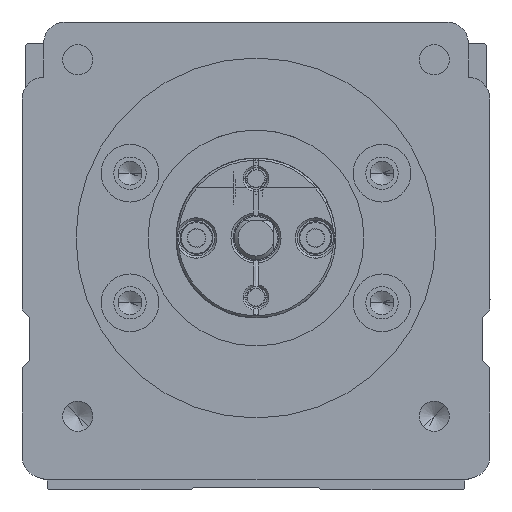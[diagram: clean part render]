
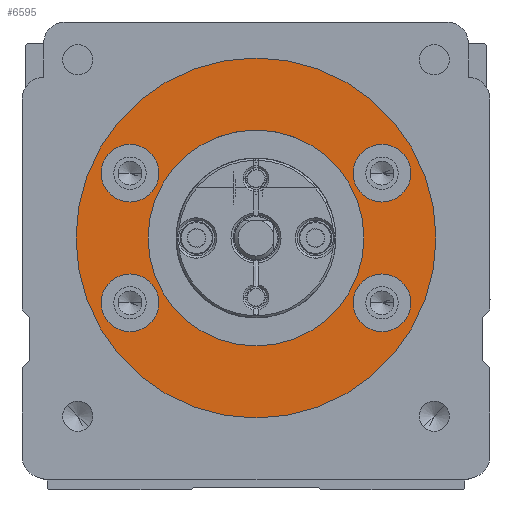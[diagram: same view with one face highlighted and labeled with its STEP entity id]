
A CAD part, front view. The second image highlights one B-rep face of the part: STEP entity #6595.
In plain terms, the highlighted planar face has unit normal (0, -1, 0).
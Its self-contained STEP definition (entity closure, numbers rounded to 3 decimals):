
#6595=ADVANCED_FACE('',(#13615,#13616,#13617,#13618,#13619,#13620),#13621,.F.);
#13615=FACE_BOUND('',#22491,.T.);
#13616=FACE_BOUND('',#22492,.T.);
#13617=FACE_BOUND('',#22493,.T.);
#13618=FACE_BOUND('',#22494,.T.);
#13619=FACE_BOUND('',#22495,.T.);
#13620=FACE_OUTER_BOUND('',#22496,.T.);
#13621=PLANE('',#22497);
#22491=EDGE_LOOP('',(#40589,#40590));
#22492=EDGE_LOOP('',(#40591,#40592));
#22493=EDGE_LOOP('',(#40593,#40594));
#22494=EDGE_LOOP('',(#40595,#40596));
#22495=EDGE_LOOP('',(#40597,#40598));
#22496=EDGE_LOOP('',(#40599,#40600));
#22497=AXIS2_PLACEMENT_3D('',#40601,#40602,#40603);
#40589=ORIENTED_EDGE('',*,*,#47738,.T.);
#40590=ORIENTED_EDGE('',*,*,#52775,.T.);
#40591=ORIENTED_EDGE('',*,*,#51943,.T.);
#40592=ORIENTED_EDGE('',*,*,#49345,.T.);
#40593=ORIENTED_EDGE('',*,*,#48051,.T.);
#40594=ORIENTED_EDGE('',*,*,#53759,.T.);
#40595=ORIENTED_EDGE('',*,*,#53320,.T.);
#40596=ORIENTED_EDGE('',*,*,#53760,.T.);
#40597=ORIENTED_EDGE('',*,*,#51059,.T.);
#40598=ORIENTED_EDGE('',*,*,#47919,.T.);
#40599=ORIENTED_EDGE('',*,*,#50991,.T.);
#40600=ORIENTED_EDGE('',*,*,#48696,.T.);
#40601=CARTESIAN_POINT('',(300.,-10.,0.));
#40602=DIRECTION('',(0.,1.0,0.));
#40603=DIRECTION('',(1.0,0.,0.));
#47738=EDGE_CURVE('',#57397,#57395,#57398,.T.);
#47919=EDGE_CURVE('',#57701,#57705,#57707,.T.);
#48051=EDGE_CURVE('',#57941,#57939,#57942,.T.);
#48696=EDGE_CURVE('',#59021,#59018,#59022,.T.);
#49345=EDGE_CURVE('',#60069,#60073,#60075,.T.);
#50991=EDGE_CURVE('',#59018,#59021,#62596,.T.);
#51059=EDGE_CURVE('',#57705,#57701,#62697,.T.);
#51943=EDGE_CURVE('',#60073,#60069,#63916,.T.);
#52775=EDGE_CURVE('',#57395,#57397,#65025,.T.);
#53320=EDGE_CURVE('',#65720,#65718,#65721,.T.);
#53759=EDGE_CURVE('',#57939,#57941,#66232,.T.);
#53760=EDGE_CURVE('',#65718,#65720,#66233,.T.);
#57395=VERTEX_POINT('',#71110);
#57397=VERTEX_POINT('',#71113);
#57398=CIRCLE('',#71114,4.0);
#57701=VERTEX_POINT('',#71615);
#57705=VERTEX_POINT('',#71620);
#57707=CIRCLE('',#71623,15.0);
#57939=VERTEX_POINT('',#71939);
#57941=VERTEX_POINT('',#71942);
#57942=CIRCLE('',#71943,4.0);
#59018=VERTEX_POINT('',#73401);
#59021=VERTEX_POINT('',#73405);
#59022=CIRCLE('',#73406,25.0);
#60069=VERTEX_POINT('',#74870);
#60073=VERTEX_POINT('',#74875);
#60075=CIRCLE('',#74878,4.0);
#62596=CIRCLE('',#78549,25.0);
#62697=CIRCLE('',#78693,15.0);
#63916=CIRCLE('',#80543,4.0);
#65025=CIRCLE('',#82208,4.0);
#65718=VERTEX_POINT('',#83255);
#65720=VERTEX_POINT('',#83258);
#65721=CIRCLE('',#83259,4.0);
#66232=CIRCLE('',#83941,4.0);
#66233=CIRCLE('',#83942,4.0);
#71110=CARTESIAN_POINT('',(278.5,-10.,-9.));
#71113=CARTESIAN_POINT('',(286.5,-10.,-9.));
#71114=AXIS2_PLACEMENT_3D('',#87451,#87452,#87453);
#71615=CARTESIAN_POINT('',(315.,-10.,0.));
#71620=CARTESIAN_POINT('',(285.,-10.,0.));
#71623=AXIS2_PLACEMENT_3D('',#87682,#87683,#87684);
#71939=CARTESIAN_POINT('',(278.5,-10.,9.));
#71942=CARTESIAN_POINT('',(286.5,-10.,9.));
#71943=AXIS2_PLACEMENT_3D('',#87885,#87886,#87887);
#73401=CARTESIAN_POINT('',(325.,-10.,0.));
#73405=CARTESIAN_POINT('',(275.,-10.,0.));
#73406=AXIS2_PLACEMENT_3D('',#88758,#88759,#88760);
#74870=CARTESIAN_POINT('',(313.5,-10.,-9.));
#74875=CARTESIAN_POINT('',(321.5,-10.,-9.));
#74878=AXIS2_PLACEMENT_3D('',#89645,#89646,#89647);
#78549=AXIS2_PLACEMENT_3D('',#91768,#91769,#91770);
#78693=AXIS2_PLACEMENT_3D('',#91855,#91856,#91857);
#80543=AXIS2_PLACEMENT_3D('',#92858,#92859,#92860);
#82208=AXIS2_PLACEMENT_3D('',#93795,#93796,#93797);
#83255=CARTESIAN_POINT('',(313.5,-10.,9.));
#83258=CARTESIAN_POINT('',(321.5,-10.,9.));
#83259=AXIS2_PLACEMENT_3D('',#94401,#94402,#94403);
#83941=AXIS2_PLACEMENT_3D('',#94876,#94877,#94878);
#83942=AXIS2_PLACEMENT_3D('',#94879,#94880,#94881);
#87451=CARTESIAN_POINT('',(282.5,-10.,-9.));
#87452=DIRECTION('',(0.,1.0,0.));
#87453=DIRECTION('',(-1.0,0.,0.));
#87682=CARTESIAN_POINT('',(300.,-10.,0.));
#87683=DIRECTION('',(0.,1.0,0.));
#87684=DIRECTION('',(1.0,0.,0.));
#87885=CARTESIAN_POINT('',(282.5,-10.,9.));
#87886=DIRECTION('',(0.,1.0,0.));
#87887=DIRECTION('',(-1.0,0.,0.));
#88758=CARTESIAN_POINT('',(300.,-10.,0.));
#88759=DIRECTION('',(0.,-1.0,0.));
#88760=DIRECTION('',(1.0,0.,0.));
#89645=CARTESIAN_POINT('',(317.5,-10.,-9.));
#89646=DIRECTION('',(0.,1.0,0.));
#89647=DIRECTION('',(-1.0,0.,0.));
#91768=CARTESIAN_POINT('',(300.,-10.,0.));
#91769=DIRECTION('',(0.,-1.0,0.));
#91770=DIRECTION('',(1.0,0.,0.));
#91855=CARTESIAN_POINT('',(300.,-10.,0.));
#91856=DIRECTION('',(0.,1.0,0.));
#91857=DIRECTION('',(1.0,0.,0.));
#92858=CARTESIAN_POINT('',(317.5,-10.,-9.));
#92859=DIRECTION('',(0.,1.0,0.));
#92860=DIRECTION('',(-1.0,0.,0.));
#93795=CARTESIAN_POINT('',(282.5,-10.,-9.));
#93796=DIRECTION('',(0.,1.0,0.));
#93797=DIRECTION('',(-1.0,0.,0.));
#94401=CARTESIAN_POINT('',(317.5,-10.,9.));
#94402=DIRECTION('',(0.,1.0,0.));
#94403=DIRECTION('',(-1.0,0.,0.));
#94876=CARTESIAN_POINT('',(282.5,-10.,9.));
#94877=DIRECTION('',(0.,1.0,0.));
#94878=DIRECTION('',(-1.0,0.,0.));
#94879=CARTESIAN_POINT('',(317.5,-10.,9.));
#94880=DIRECTION('',(0.,1.0,0.));
#94881=DIRECTION('',(-1.0,0.,0.));
